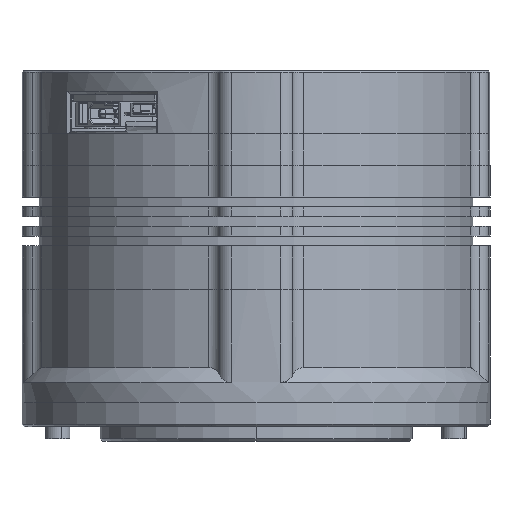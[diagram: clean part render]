
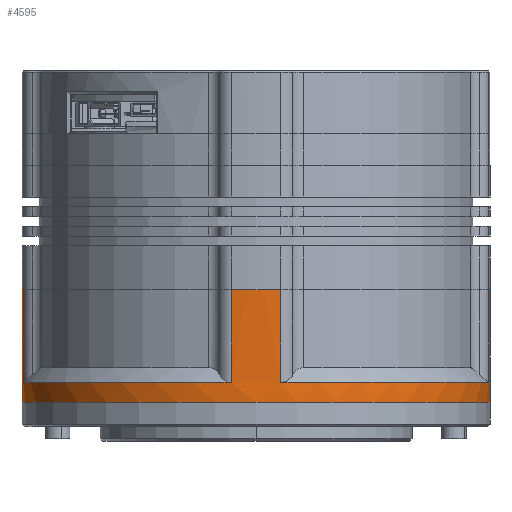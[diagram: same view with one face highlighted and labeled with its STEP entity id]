
A CAD part, front view. The second image highlights one B-rep face of the part: STEP entity #4595.
In plain terms, the highlighted cylindrical face has radius 48 mm (diameter 96 mm), a partial arc.
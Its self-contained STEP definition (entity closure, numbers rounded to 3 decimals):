
#41 = EDGE_CURVE ( 'NONE', #3955, #7156, #1061, .T. ) ;
#477 = VECTOR ( 'NONE', #24460, 1000. ) ;
#652 = DIRECTION ( 'NONE',  ( 1., 0., 0. ) ) ;
#694 = CIRCLE ( 'NONE', #11218, 48. ) ;
#714 = AXIS2_PLACEMENT_3D ( 'NONE', #21434, #19285, #28974 ) ;
#734 = DIRECTION ( 'NONE',  ( 0., 0., 1. ) ) ;
#937 = ORIENTED_EDGE ( 'NONE', *, *, #21222, .T. ) ;
#939 = VERTEX_POINT ( 'NONE', #6095 ) ;
#944 = ORIENTED_EDGE ( 'NONE', *, *, #14780, .F. ) ;
#1061 = CIRCLE ( 'NONE', #714, 48. ) ;
#1407 = AXIS2_PLACEMENT_3D ( 'NONE', #25770, #30520, #18058 ) ;
#1744 = EDGE_CURVE ( 'NONE', #19857, #14424, #8774, .T. ) ;
#2096 = AXIS2_PLACEMENT_3D ( 'NONE', #9182, #19021, #29033 ) ;
#2867 = CIRCLE ( 'NONE', #9191, 48. ) ;
#3098 = CARTESIAN_POINT ( 'NONE',  ( 4.961, -47.226, -37.023 ) ) ;
#3445 = CARTESIAN_POINT ( 'NONE',  ( -48.132, 0.503, -18.023 ) ) ;
#3807 = CARTESIAN_POINT ( 'NONE',  ( -5.225, -47.226, -18.023 ) ) ;
#3955 = VERTEX_POINT ( 'NONE', #20083 ) ;
#4053 = CARTESIAN_POINT ( 'NONE',  ( -5.225, -47.226, -18.023 ) ) ;
#4257 = ORIENTED_EDGE ( 'NONE', *, *, #18812, .T. ) ;
#4558 = DIRECTION ( 'NONE',  ( 0., 0., 1. ) ) ;
#4595 = ADVANCED_FACE ( 'NONE', ( #16721 ), #16563, .T. ) ;
#4682 = ORIENTED_EDGE ( 'NONE', *, *, #41, .T. ) ;
#5357 = ORIENTED_EDGE ( 'NONE', *, *, #30429, .T. ) ;
#5596 = CARTESIAN_POINT ( 'NONE',  ( -0.132, 0.503, -37.023 ) ) ;
#6095 = CARTESIAN_POINT ( 'NONE',  ( 4.961, -47.226, -18.023 ) ) ;
#6204 = DIRECTION ( 'NONE',  ( 0., 0., -1. ) ) ;
#7156 = VERTEX_POINT ( 'NONE', #25889 ) ;
#7549 = VECTOR ( 'NONE', #19681, 1000. ) ;
#7594 = DIRECTION ( 'NONE',  ( 1., 0., 0. ) ) ;
#7757 = CARTESIAN_POINT ( 'NONE',  ( -0.132, 0.503, -18.023 ) ) ;
#7969 = EDGE_CURVE ( 'NONE', #12392, #939, #22212, .T. ) ;
#8083 = CARTESIAN_POINT ( 'NONE',  ( 47.597, -4.59, -37.023 ) ) ;
#8440 = VECTOR ( 'NONE', #4558, 1000. ) ;
#8774 = CIRCLE ( 'NONE', #1407, 48. ) ;
#9182 = CARTESIAN_POINT ( 'NONE',  ( -0.132, 0.503, -18.023 ) ) ;
#9191 = AXIS2_PLACEMENT_3D ( 'NONE', #16660, #26363, #28971 ) ;
#9667 = CARTESIAN_POINT ( 'NONE',  ( 47.868, 0.503, -18.023 ) ) ;
#9737 = CARTESIAN_POINT ( 'NONE',  ( 4.961, -47.226, -18.023 ) ) ;
#11218 = AXIS2_PLACEMENT_3D ( 'NONE', #14865, #734, #18316 ) ;
#11368 = ORIENTED_EDGE ( 'NONE', *, *, #27502, .F. ) ;
#11970 = CARTESIAN_POINT ( 'NONE',  ( 47.597, -4.59, -18.023 ) ) ;
#12392 = VERTEX_POINT ( 'NONE', #3098 ) ;
#12731 = ORIENTED_EDGE ( 'NONE', *, *, #31868, .T. ) ;
#13163 = DIRECTION ( 'NONE',  ( 0., 0., 1. ) ) ;
#13478 = CARTESIAN_POINT ( 'NONE',  ( 47.597, -4.59, -18.023 ) ) ;
#14424 = VERTEX_POINT ( 'NONE', #18834 ) ;
#14780 = EDGE_CURVE ( 'NONE', #28298, #939, #694, .T. ) ;
#14865 = CARTESIAN_POINT ( 'NONE',  ( -0.132, 0.503, -18.023 ) ) ;
#14914 = VECTOR ( 'NONE', #28182, 1000. ) ;
#16537 = CIRCLE ( 'NONE', #24399, 48. ) ;
#16563 = CYLINDRICAL_SURFACE ( 'NONE', #2096, 48. ) ;
#16660 = CARTESIAN_POINT ( 'NONE',  ( -0.132, 0.503, -41.123 ) ) ;
#16717 = CARTESIAN_POINT ( 'NONE',  ( -47.861, -4.59, -18.023 ) ) ;
#16721 = FACE_OUTER_BOUND ( 'NONE', #27859, .T. ) ;
#17276 = DIRECTION ( 'NONE',  ( 0., 0., 1. ) ) ;
#18058 = DIRECTION ( 'NONE',  ( 1., 0., 0. ) ) ;
#18316 = DIRECTION ( 'NONE',  ( 1., 0., 0. ) ) ;
#18812 = EDGE_CURVE ( 'NONE', #32142, #12392, #25927, .T. ) ;
#18834 = CARTESIAN_POINT ( 'NONE',  ( -47.861, -4.59, -18.023 ) ) ;
#19021 = DIRECTION ( 'NONE',  ( 0., 0., -1. ) ) ;
#19285 = DIRECTION ( 'NONE',  ( 0., 0., -1. ) ) ;
#19515 = LINE ( 'NONE', #9667, #7549 ) ;
#19681 = DIRECTION ( 'NONE',  ( 0., 0., -1. ) ) ;
#19857 = VERTEX_POINT ( 'NONE', #3445 ) ;
#20083 = CARTESIAN_POINT ( 'NONE',  ( -5.225, -47.226, -37.023 ) ) ;
#20496 = CARTESIAN_POINT ( 'NONE',  ( -48.132, 0.503, -41.123 ) ) ;
#20554 = DIRECTION ( 'NONE',  ( 0., 0., -1. ) ) ;
#20641 = CARTESIAN_POINT ( 'NONE',  ( -48.132, 0.503, -18.023 ) ) ;
#21001 = ORIENTED_EDGE ( 'NONE', *, *, #32129, .F. ) ;
#21064 = ORIENTED_EDGE ( 'NONE', *, *, #7969, .T. ) ;
#21222 = EDGE_CURVE ( 'NONE', #29640, #32142, #29372, .T. ) ;
#21434 = CARTESIAN_POINT ( 'NONE',  ( -0.132, 0.503, -37.023 ) ) ;
#21619 = VERTEX_POINT ( 'NONE', #32186 ) ;
#21645 = LINE ( 'NONE', #16717, #8440 ) ;
#22212 = LINE ( 'NONE', #9737, #25021 ) ;
#22216 = VERTEX_POINT ( 'NONE', #25535 ) ;
#22268 = AXIS2_PLACEMENT_3D ( 'NONE', #5596, #20554, #652 ) ;
#23283 = ORIENTED_EDGE ( 'NONE', *, *, #25016, .T. ) ;
#24399 = AXIS2_PLACEMENT_3D ( 'NONE', #7757, #13163, #7594 ) ;
#24460 = DIRECTION ( 'NONE',  ( 0., 0., -1. ) ) ;
#25016 = EDGE_CURVE ( 'NONE', #7156, #14424, #21645, .T. ) ;
#25021 = VECTOR ( 'NONE', #17276, 1000. ) ;
#25535 = CARTESIAN_POINT ( 'NONE',  ( 47.868, 0.503, -18.023 ) ) ;
#25770 = CARTESIAN_POINT ( 'NONE',  ( -0.132, 0.503, -18.023 ) ) ;
#25889 = CARTESIAN_POINT ( 'NONE',  ( -47.861, -4.59, -37.023 ) ) ;
#25927 = CIRCLE ( 'NONE', #22268, 48. ) ;
#26359 = VERTEX_POINT ( 'NONE', #20496 ) ;
#26363 = DIRECTION ( 'NONE',  ( 0., 0., 1. ) ) ;
#26622 = ORIENTED_EDGE ( 'NONE', *, *, #30152, .T. ) ;
#26726 = ORIENTED_EDGE ( 'NONE', *, *, #1744, .F. ) ;
#26974 = VECTOR ( 'NONE', #6204, 1000. ) ;
#27502 = EDGE_CURVE ( 'NONE', #22216, #21619, #19515, .T. ) ;
#27859 = EDGE_LOOP ( 'NONE', ( #11368, #21001, #937, #4257, #21064, #944, #26622, #4682, #23283, #26726, #12731, #5357 ) ) ;
#28021 = LINE ( 'NONE', #20641, #14914 ) ;
#28182 = DIRECTION ( 'NONE',  ( 0., 0., -1. ) ) ;
#28298 = VERTEX_POINT ( 'NONE', #3807 ) ;
#28694 = LINE ( 'NONE', #4053, #26974 ) ;
#28971 = DIRECTION ( 'NONE',  ( 1., 0., 0. ) ) ;
#28974 = DIRECTION ( 'NONE',  ( 1., 0., 0. ) ) ;
#29033 = DIRECTION ( 'NONE',  ( -1., 0., 0. ) ) ;
#29372 = LINE ( 'NONE', #11970, #477 ) ;
#29640 = VERTEX_POINT ( 'NONE', #13478 ) ;
#30152 = EDGE_CURVE ( 'NONE', #28298, #3955, #28694, .T. ) ;
#30429 = EDGE_CURVE ( 'NONE', #26359, #21619, #2867, .T. ) ;
#30520 = DIRECTION ( 'NONE',  ( 0., 0., 1. ) ) ;
#31868 = EDGE_CURVE ( 'NONE', #19857, #26359, #28021, .T. ) ;
#32129 = EDGE_CURVE ( 'NONE', #29640, #22216, #16537, .T. ) ;
#32142 = VERTEX_POINT ( 'NONE', #8083 ) ;
#32186 = CARTESIAN_POINT ( 'NONE',  ( 47.868, 0.503, -41.123 ) ) ;
